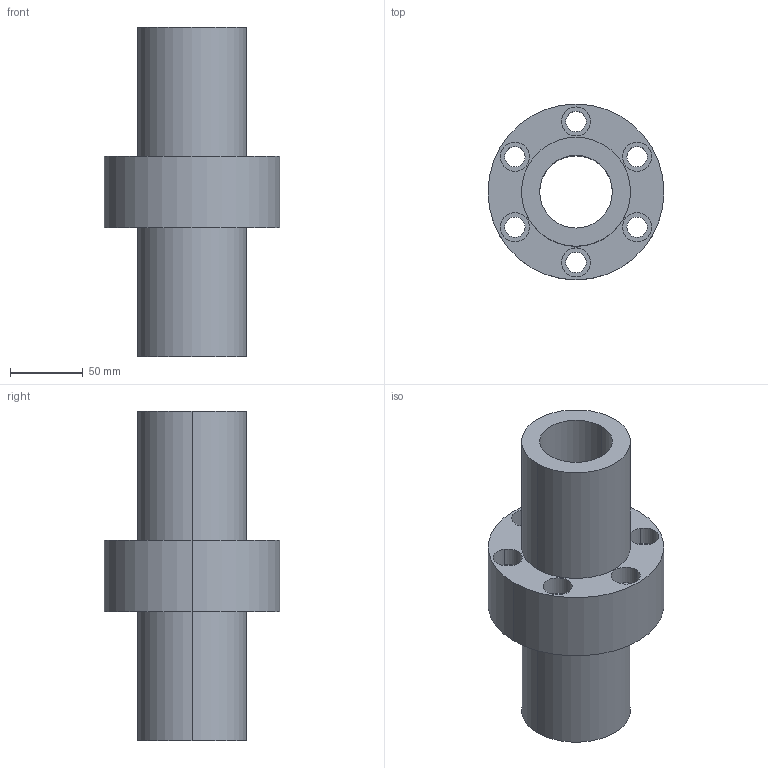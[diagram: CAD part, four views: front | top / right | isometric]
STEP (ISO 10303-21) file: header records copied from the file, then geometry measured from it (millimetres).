
FILE_DESCRIPTION((''),'2;1');
FILE_NAME('50-12T4','2008-04-07T',('yanyu'),(''),'PRO/ENGINEER BY PARAMETRIC TECHNOLOGY CORPORATION, 2005070','PRO/ENGINEER BY PARAMETRIC TECHNOLOGY CORPORATION, 2005070','');
FILE_SCHEMA(('CONFIG_CONTROL_DESIGN'));
Length unit declared in the file: millimetre
Products named in the file (1): 50-12T4
Bounding box: 121 x 121 x 227 mm (x, y, z)
Volume: 846363.1 mm3; surface area: 127848.7 mm2
Topology: 1 solids, 1 shells, 42 faces, 112 edges, 80 vertices
Faces by surface type: cylinder 32, plane 10
Entity records: 1450 total; most frequent: DIRECTION 276, CARTESIAN_POINT 234, ORIENTED_EDGE 224, AXIS2_PLACEMENT_3D 122, EDGE_CURVE 112, VERTEX_POINT 80, CIRCLE 80, EDGE_LOOP 64
